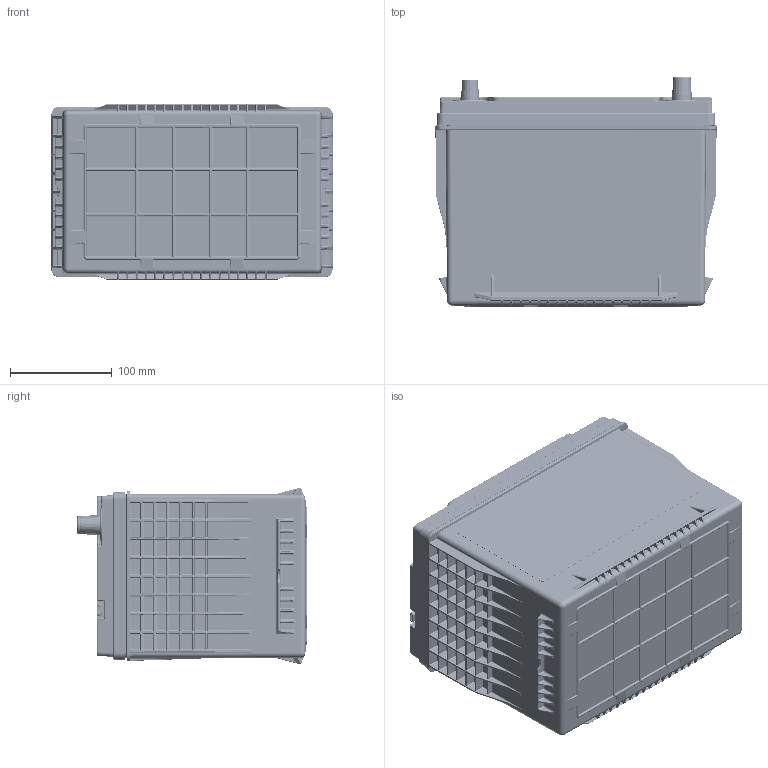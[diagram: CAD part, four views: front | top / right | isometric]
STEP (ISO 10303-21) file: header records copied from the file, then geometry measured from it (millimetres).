
FILE_DESCRIPTION (( 'STEP AP203' ), '1' );
FILE_NAME ('ODP-AGM24F.STEP', '2024-03-25T20:17:48', ( '' ), ( '' ), 'SwSTEP 2.0', 'SolidWorks 2022', '' );
FILE_SCHEMA (( 'CONFIG_CONTROL_DESIGN' ));
Length unit declared in the file: inch
Products named in the file (1): ODP-AGM24F
Bounding box: 276 x 225.33 x 171.96 mm (x, y, z)
Volume: 1534773.8 mm3; surface area: 1161596.2 mm2
Topology: 30 solids, 30 shells, 12577 faces, 29539 edges, 16129 vertices
Faces by surface type: cylinder 4839, bspline 3319, plane 2506, sphere 1185, torus 402, cone 326
Full cylindrical faces by diameter (mm): 6.35 x2, 6.777 x2, 7.7 x6, 10.084 x2, 10.1 x6, 10.312 x2, 11.654 x2, 11.659 x2, 12.573 x2, 13.716 x2, 14.275 x4, 15.24 x2, 15.85 x2, 15.875 x2, 16.154 x2, 19.101 x2, 19.329 x2, 20.625 x2, 25.4 x4, 28.55 x2, 28.575 x2
Entity records: 445684 total; most frequent: CARTESIAN_POINT 196892, ORIENTED_EDGE 56272, DIRECTION 47531, EDGE_CURVE 28136, AXIS2_PLACEMENT_3D 18234, VERTEX_POINT 16002, EDGE_LOOP 13006, FACE_OUTER_BOUND 12705
